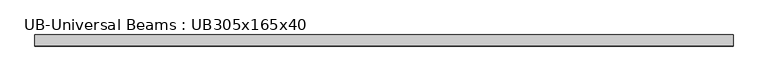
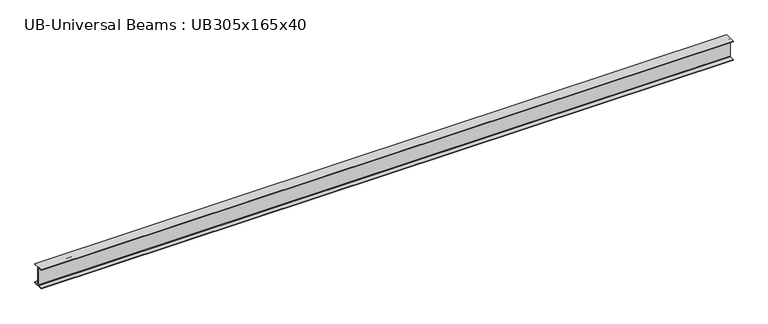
"""IFC4 building model written with IfcOpenShell, lengths in millimetres: beam geometry, UB-Universal Beams : UB305x165x40."""

from ifc_helpers import new_model, si_unit, point, frame, frame_2d, origin, place, context, project, spatial, polyline, circle_curve, trimmed, segment, composite_curve, outline, extrude, source, transform, mapped, element, save


def ub_universal_beams_ub305x165x40_6e8e4b9c(model_context):
    return source(origin(), model_context, "Body", "SweptSolid", [
        extrude(outline(composite_curve([segment(polyline([(82.5, -141.5), (82.5, -151.7), (-82.5, -151.7), (-82.5, -141.5), (-11.9, -141.5)]), True, "CONTINUOUS"), segment(trimmed(circle_curve(frame_2d((-11.9, -132.6)), 8.9), [point((-11.9, -141.5))], [point((-3.0, -132.6))], True, "CARTESIAN"), True, "CONTINUOUS"), segment(polyline([(-3.0, -132.6), (-3.0, 132.6)]), True, "CONTINUOUS"), segment(trimmed(circle_curve(frame_2d((-11.9, 132.6)), 8.9), [point((-3.0, 132.6))], [point((-11.9, 141.5))], True, "CARTESIAN"), True, "CONTINUOUS"), segment(polyline([(-11.9, 141.5), (-82.5, 141.5), (-82.5, 151.7), (82.5, 151.7), (82.5, 141.5), (11.9, 141.5)]), True, "CONTINUOUS"), segment(trimmed(circle_curve(frame_2d((11.9, 132.6)), 8.9), [point((11.9, 141.5))], [point((3.0, 132.6))], True, "CARTESIAN"), True, "CONTINUOUS"), segment(polyline([(3.0, 132.6), (3.0, -132.6)]), True, "CONTINUOUS"), segment(trimmed(circle_curve(frame_2d((11.9, -132.6)), 8.9), [point((3.0, -132.6))], [point((11.9, -141.5))], True, "CARTESIAN"), True, "CONTINUOUS"), segment(polyline([(11.9, -141.5), (82.5, -141.5)]), True, "CONTINUOUS")], self_intersect=False)), frame((-2917.0, 0.0, 0.0), z_axis=(1.0, 0.0, 0.0), x_axis=(0.0, 1.0, 0.0)), (0.0, 0.0, 1.0), 10387.9),
    ])


if __name__ == "__main__":
    model = new_model("IFC4")
    model_context = context("Model", 3, world=origin())
    ifc_project = project(units=[si_unit("LENGTHUNIT", "METRE", prefix="MILLI")], contexts=[model_context])
    site = spatial("IfcSite", under=ifc_project)
    building = spatial("IfcBuilding", under=site)
    placement = place(None, origin())
    ub_universal_beams_ub305x165x40_shape = ub_universal_beams_ub305x165x40_6e8e4b9c(model_context)
    element("IfcBeam", 1, ObjectType="UB-Universal Beams : UB305x165x40", at=placement, inside=building, context=model_context, shape_type="MappedRepresentation", body=[
        mapped(ub_universal_beams_ub305x165x40_shape, transform((0.0, 0.0, 0.0), x_axis=(1.0, 0.0, 0.0), y_axis=(0.0, 1.0, 0.0), z_axis=(0.0, 0.0, 1.0))),
    ])
    save(model, "model.ifc")
